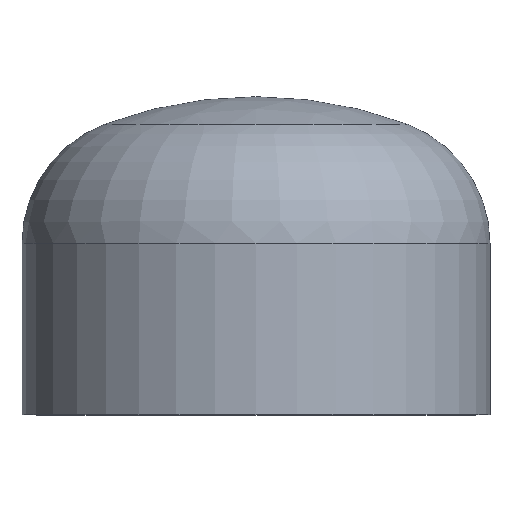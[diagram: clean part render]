
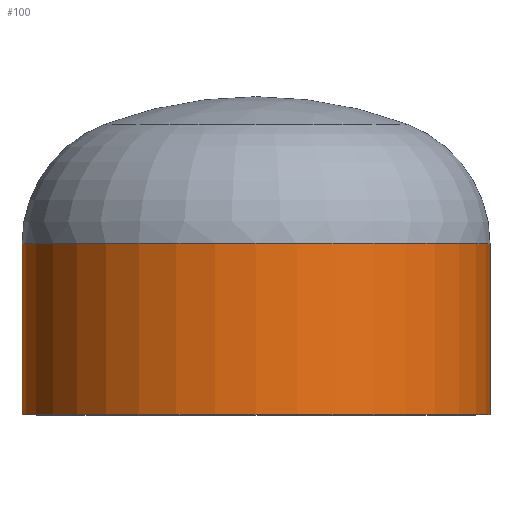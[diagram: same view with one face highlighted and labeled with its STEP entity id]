
A CAD part, top view. The second image highlights one B-rep face of the part: STEP entity #100.
In plain terms, the highlighted cylindrical face has radius 177.8 mm (diameter 355.6 mm), a partial arc.
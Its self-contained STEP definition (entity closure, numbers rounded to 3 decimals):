
#5 = CARTESIAN_POINT ( 'NONE',  ( -177.8, 0., 0. ) ) ;
#10 = DIRECTION ( 'NONE',  ( 1., 0., 0. ) ) ;
#14 = EDGE_LOOP ( 'NONE', ( #205, #193, #176, #45 ) ) ;
#19 = DIRECTION ( 'NONE',  ( 1., 0., 0. ) ) ;
#22 = AXIS2_PLACEMENT_3D ( 'NONE', #211, #212, #200 ) ;
#23 = DIRECTION ( 'NONE',  ( 0., -1., 0. ) ) ;
#24 = CARTESIAN_POINT ( 'NONE',  ( 0., 130., 0. ) ) ;
#45 = ORIENTED_EDGE ( 'NONE', *, *, #261, .F. ) ;
#60 = AXIS2_PLACEMENT_3D ( 'NONE', #351, #195, #10 ) ;
#65 = VERTEX_POINT ( 'NONE', #326 ) ;
#100 = ADVANCED_FACE ( 'NONE', ( #191 ), #162, .T. ) ;
#108 = VERTEX_POINT ( 'NONE', #316 ) ;
#126 = CARTESIAN_POINT ( 'NONE',  ( 177.8, 0., 0. ) ) ;
#149 = EDGE_CURVE ( 'NONE', #65, #194, #378, .T. ) ;
#154 = VERTEX_POINT ( 'NONE', #182 ) ;
#162 = CYLINDRICAL_SURFACE ( 'NONE', #60, 177.8 ) ;
#174 = EDGE_CURVE ( 'NONE', #108, #194, #256, .T. ) ;
#176 = ORIENTED_EDGE ( 'NONE', *, *, #149, .F. ) ;
#182 = CARTESIAN_POINT ( 'NONE',  ( 177.8, 130., 0. ) ) ;
#191 = FACE_OUTER_BOUND ( 'NONE', #14, .T. ) ;
#193 = ORIENTED_EDGE ( 'NONE', *, *, #174, .T. ) ;
#194 = VERTEX_POINT ( 'NONE', #5 ) ;
#195 = DIRECTION ( 'NONE',  ( 0., -1., 0. ) ) ;
#200 = DIRECTION ( 'NONE',  ( 1., 0., 0. ) ) ;
#205 = ORIENTED_EDGE ( 'NONE', *, *, #234, .T. ) ;
#211 = CARTESIAN_POINT ( 'NONE',  ( 0., 0., 0. ) ) ;
#212 = DIRECTION ( 'NONE',  ( 0., -1., 0. ) ) ;
#217 = CARTESIAN_POINT ( 'NONE',  ( -177.8, 0., 0. ) ) ;
#218 = VECTOR ( 'NONE', #392, 1000. ) ;
#232 = LINE ( 'NONE', #126, #218 ) ;
#234 = EDGE_CURVE ( 'NONE', #154, #108, #237, .T. ) ;
#237 = CIRCLE ( 'NONE', #262, 177.8 ) ;
#256 = LINE ( 'NONE', #217, #314 ) ;
#261 = EDGE_CURVE ( 'NONE', #154, #65, #232, .T. ) ;
#262 = AXIS2_PLACEMENT_3D ( 'NONE', #24, #23, #19 ) ;
#310 = DIRECTION ( 'NONE',  ( 0., -1., 0. ) ) ;
#314 = VECTOR ( 'NONE', #310, 1000. ) ;
#316 = CARTESIAN_POINT ( 'NONE',  ( -177.8, 130., 0. ) ) ;
#326 = CARTESIAN_POINT ( 'NONE',  ( 177.8, 0., 0. ) ) ;
#351 = CARTESIAN_POINT ( 'NONE',  ( 0., 0., 0. ) ) ;
#378 = CIRCLE ( 'NONE', #22, 177.8 ) ;
#392 = DIRECTION ( 'NONE',  ( 0., -1., 0. ) ) ;
